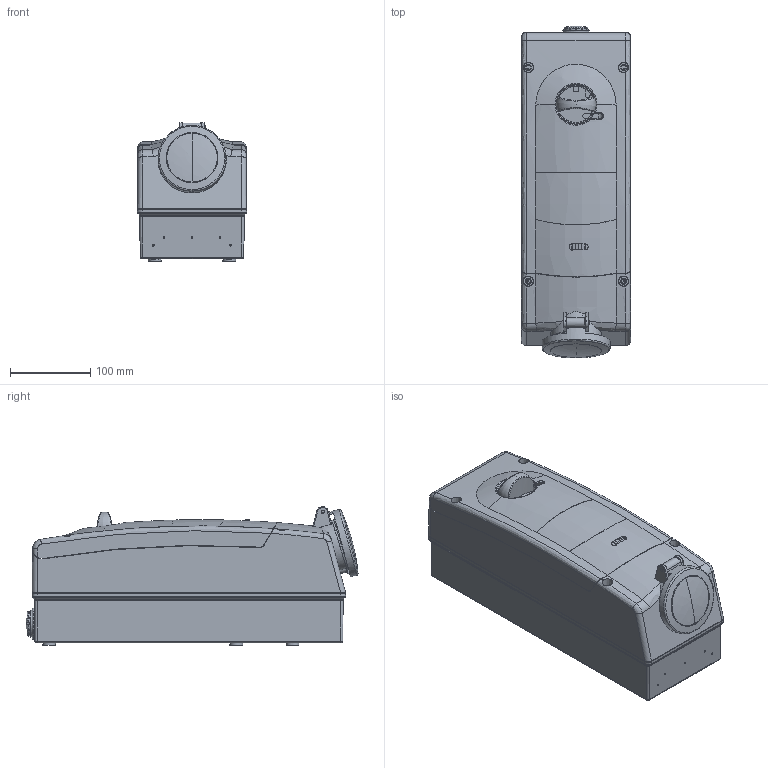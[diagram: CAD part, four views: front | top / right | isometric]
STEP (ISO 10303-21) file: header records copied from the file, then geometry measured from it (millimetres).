
FILE_DESCRIPTION(/* description */ (''),/* implementation_level */ '2;1');
FILE_NAME(/* name */ '4003887.stp',/* time_stamp */ '2017-05-04T09:24:17+02:00',/* author */ (''),/* organization */ (''),/* preprocessor_version */ 'ST-DEVELOPER v16',/* originating_system */ 'SIEMENS PLM Software NX 11.0',/* authorisation */ '');
FILE_SCHEMA (('AUTOMOTIVE_DESIGN { 1 0 10303 214 3 1 1 1 }'));
Length unit declared in the file: millimetre
Products named in the file (1): 4003887_LINKEDEXT_jt
Bounding box: 136 x 413.23 x 172.47 mm (x, y, z)
Surface area: 291247.9 mm2 (no closed solid volume)
Topology: 0 solids, 50 shells, 338 faces, 1372 edges, 1012 vertices
Faces by surface type: plane 128, cylinder 75, bspline 60, cone 42, torus 30, sphere 2, revolution 1
Full cylindrical faces by diameter (mm): 0.998 x2, 4 x1, 16 x6, 33.2 x1, 39 x1, 49.7 x1, 63 x1, 64.5 x1
Entity records: 23516 total; most frequent: CARTESIAN_POINT 10599, DIRECTION 2046, ORIENTED_EDGE 1855, EDGE_CURVE 1301, VERTEX_POINT 988, AXIS2_PLACEMENT_3D 770, LINE 505, VECTOR 505
